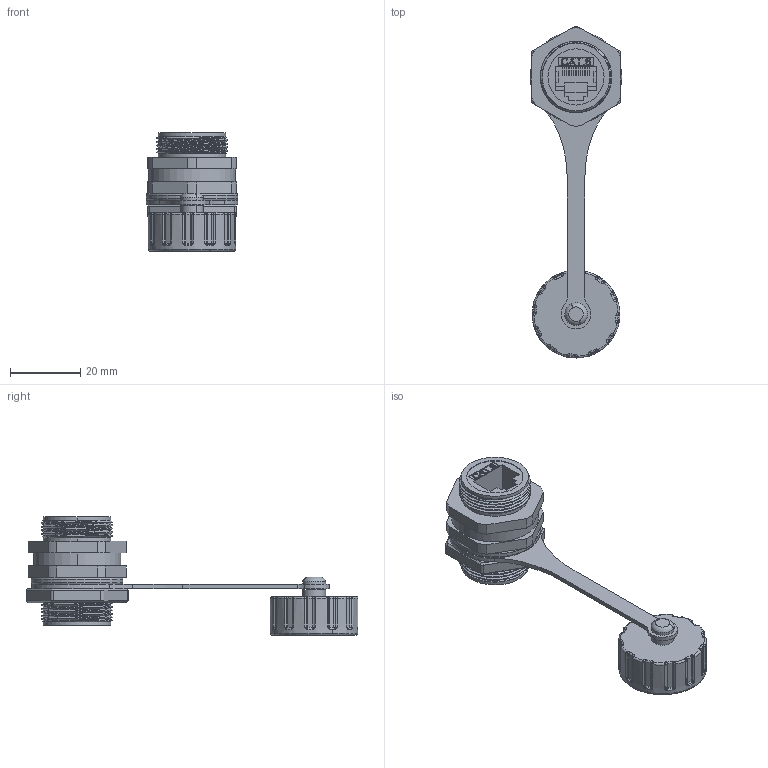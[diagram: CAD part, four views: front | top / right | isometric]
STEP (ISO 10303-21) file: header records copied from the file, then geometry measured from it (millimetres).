
FILE_DESCRIPTION((''),'2;1');
FILE_NAME('PRT0001','2025-05-30T09:13:55',('admin'),(''),'CREO PARAMETRIC BY PTC INC, 2023073','CREO PARAMETRIC BY PTC INC, 2023073','');
FILE_SCHEMA(('CONFIG_CONTROL_DESIGN'));
Length unit declared in the file: millimetre
Products named in the file (1): PRT0001
Bounding box: 26.1 x 94.72 x 33.75 mm (x, y, z)
Volume: 14145 mm3; surface area: 9847.4 mm2
Topology: 1 solids, 1 shells, 823 faces, 2199 edges, 1353 vertices
Faces by surface type: plane 282, cylinder 152, bspline 149, extrusion 98, torus 90, cone 26, sphere 24, revolution 2
Entity records: 40933 total; most frequent: CARTESIAN_POINT 21939, ORIENTED_EDGE 4302, DIRECTION 3355, EDGE_CURVE 2151, VERTEX_POINT 1353, VECTOR 1119, AXIS2_PLACEMENT_3D 1117, LINE 1021
